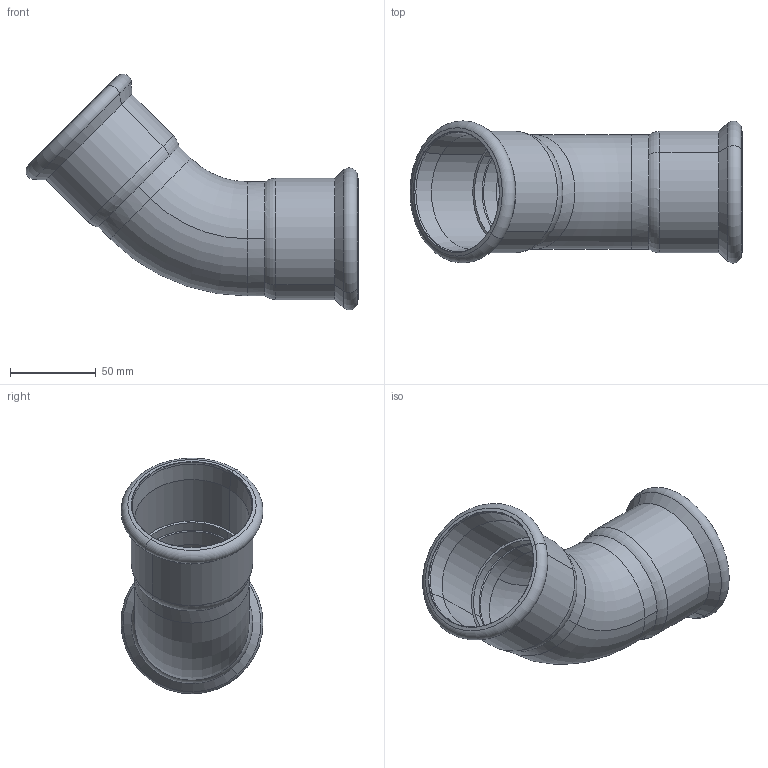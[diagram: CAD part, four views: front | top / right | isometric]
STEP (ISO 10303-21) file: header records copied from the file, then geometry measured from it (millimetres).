
FILE_DESCRIPTION(('CoCreate Modeling STEP Export'),'2;1');
FILE_NAME('C1413 67x67.stp','2014-10-23T15:54:55',(''),(''),'CoCreate Modeling STEP processor for AP214 (Solid Model)','CoCreate Modeling 17.00A 17-Jun-2010 (C) Parametric Technology GmbH','');
FILE_SCHEMA(('AUTOMOTIVE_DESIGN { 1 0 10303 214 1 1 1 1 }'));
Length unit declared in the file: millimetre
Products named in the file (1): BOCHT45PRPR_67mm
Bounding box: 193.87 x 82.91 x 137.65 mm (x, y, z)
Volume: 98181.5 mm3; surface area: 86382 mm2
Topology: 1 solids, 1 shells, 64 faces, 152 edges, 92 vertices
Faces by surface type: cylinder 24, cone 20, torus 16, plane 4
Entity records: 1476 total; most frequent: ORIENTED_EDGE 304, CARTESIAN_POINT 223, DIRECTION 218, EDGE_CURVE 152, VERTEX_POINT 92, AXIS2_PLACEMENT_3D 87, EDGE_LOOP 68, FACE_OUTER_BOUND 64
